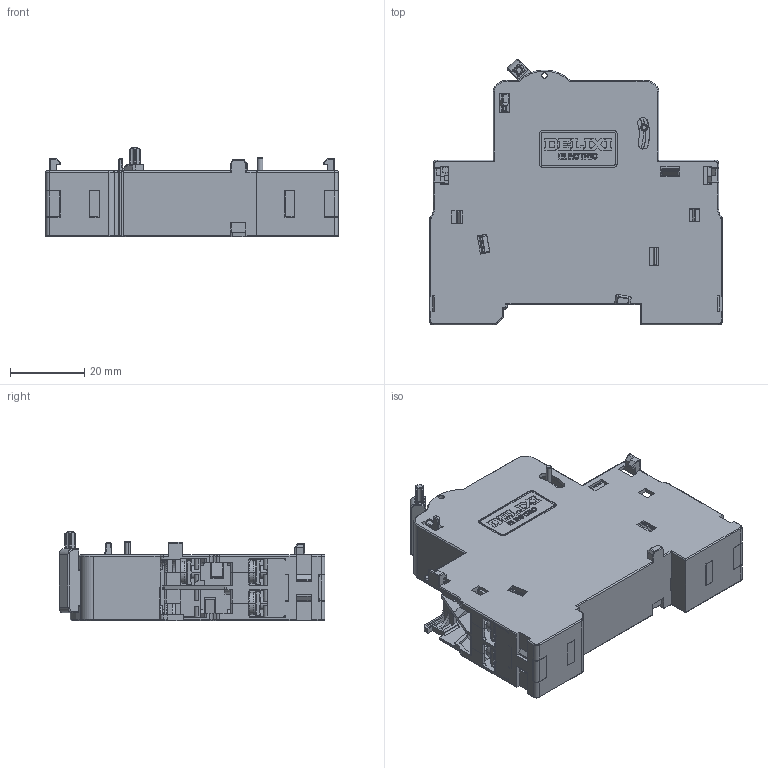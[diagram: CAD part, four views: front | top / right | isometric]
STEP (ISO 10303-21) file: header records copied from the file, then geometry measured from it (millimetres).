
FILE_DESCRIPTION((''),'2;1');
FILE_NAME('2297008600_SW0001','2023-11-07T',('dufeng.zhai'),(''),'PRO/ENGINEER BY PARAMETRIC TECHNOLOGY CORPORATION, 2015440','PRO/ENGINEER BY PARAMETRIC TECHNOLOGY CORPORATION, 2015440','');
FILE_SCHEMA(('CONFIG_CONTROL_DESIGN'));
Products named in the file (1): 2297008600_SW0001
Bounding box: 79 x 71.76 x 24.05 mm (x, y, z)
Volume: 57071.9 mm3; surface area: 34927.5 mm2
Topology: 5 solids, 5 shells, 3327 faces, 9298 edges, 5912 vertices
Faces by surface type: plane 2119, cylinder 772, torus 123, cone 109, bspline 92, sphere 69, extrusion 43
Entity records: 114544 total; most frequent: CARTESIAN_POINT 29478, ORIENTED_EDGE 18596, DIRECTION 16687, EDGE_CURVE 9298, VECTOR 6873, LINE 6830, VERTEX_POINT 5912, AXIS2_PLACEMENT_3D 4907
